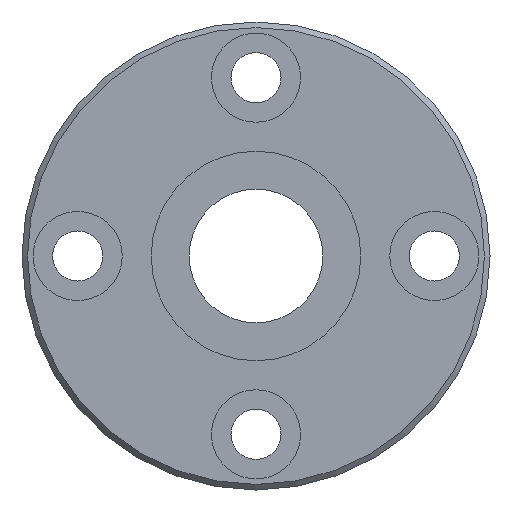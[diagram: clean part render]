
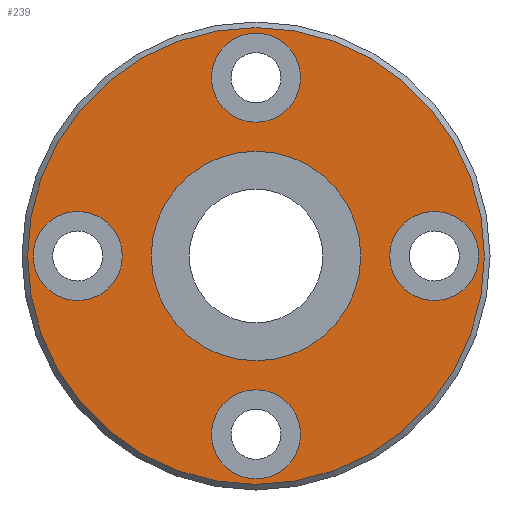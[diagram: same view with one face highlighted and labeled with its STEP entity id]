
A CAD part, left-side view. The second image highlights one B-rep face of the part: STEP entity #239.
In plain terms, the highlighted planar face has unit normal (-1, 0, 0).
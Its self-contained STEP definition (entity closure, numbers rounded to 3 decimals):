
#164=CARTESIAN_POINT('',(0.,0.,20.5));
#165=VERTEX_POINT('',#164);
#166=CARTESIAN_POINT('',(0.,0.0,0.0));
#167=DIRECTION('',(1.0,0.0,0.0));
#168=DIRECTION('',(0.0,0.0,-1.0));
#169=AXIS2_PLACEMENT_3D('',#166,#167,#168);
#170=CIRCLE('',#169,20.5);
#171=EDGE_CURVE('',#165,#165,#170,.T.);
#176=CARTESIAN_POINT('',(0.,0.0,9.95));
#177=DIRECTION('',(-1.0,0.0,0.0));
#178=DIRECTION('',(0.0,0.0,1.0));
#179=AXIS2_PLACEMENT_3D('',#176,#177,#178);
#180=PLANE('',#179);
#181=ORIENTED_EDGE('',*,*,#171,.F.);
#182=EDGE_LOOP('',(#181));
#183=FACE_OUTER_BOUND('',#182,.T.);
#184=CARTESIAN_POINT('',(0.,0.0,9.4));
#185=VERTEX_POINT('',#184);
#186=CARTESIAN_POINT('',(0.,0.0,0.0));
#187=DIRECTION('',(-1.0,0.0,0.0));
#188=DIRECTION('',(0.0,0.0,1.0));
#189=AXIS2_PLACEMENT_3D('',#186,#187,#188);
#190=CIRCLE('',#189,9.4);
#191=EDGE_CURVE('',#185,#185,#190,.T.);
#192=ORIENTED_EDGE('',*,*,#191,.F.);
#193=EDGE_LOOP('',(#192));
#194=FACE_BOUND('',#193,.T.);
#195=CARTESIAN_POINT('',(0.0,20.0,0.));
#196=VERTEX_POINT('',#195);
#197=CARTESIAN_POINT('',(0.,16.0,0.));
#198=DIRECTION('',(1.0,0.0,0.0));
#199=DIRECTION('',(0.0,1.0,0.0));
#200=AXIS2_PLACEMENT_3D('',#197,#198,#199);
#201=CIRCLE('',#200,4.0);
#202=EDGE_CURVE('',#196,#196,#201,.T.);
#203=ORIENTED_EDGE('',*,*,#202,.T.);
#204=EDGE_LOOP('',(#203));
#205=FACE_BOUND('',#204,.T.);
#206=CARTESIAN_POINT('',(0.0,-12.,0.));
#207=VERTEX_POINT('',#206);
#208=CARTESIAN_POINT('',(0.,-16.0,0.));
#209=DIRECTION('',(1.0,0.0,0.0));
#210=DIRECTION('',(0.0,1.0,0.0));
#211=AXIS2_PLACEMENT_3D('',#208,#209,#210);
#212=CIRCLE('',#211,4.0);
#213=EDGE_CURVE('',#207,#207,#212,.T.);
#214=ORIENTED_EDGE('',*,*,#213,.T.);
#215=EDGE_LOOP('',(#214));
#216=FACE_BOUND('',#215,.T.);
#217=CARTESIAN_POINT('',(0.0,4.,16.0));
#218=VERTEX_POINT('',#217);
#219=CARTESIAN_POINT('',(0.,0.,16.0));
#220=DIRECTION('',(1.0,0.0,0.0));
#221=DIRECTION('',(0.0,1.0,0.0));
#222=AXIS2_PLACEMENT_3D('',#219,#220,#221);
#223=CIRCLE('',#222,4.0);
#224=EDGE_CURVE('',#218,#218,#223,.T.);
#225=ORIENTED_EDGE('',*,*,#224,.T.);
#226=EDGE_LOOP('',(#225));
#227=FACE_BOUND('',#226,.T.);
#228=CARTESIAN_POINT('',(0.0,4.,-16.0));
#229=VERTEX_POINT('',#228);
#230=CARTESIAN_POINT('',(0.,0.,-16.0));
#231=DIRECTION('',(1.0,0.0,0.0));
#232=DIRECTION('',(0.0,1.0,0.0));
#233=AXIS2_PLACEMENT_3D('',#230,#231,#232);
#234=CIRCLE('',#233,4.0);
#235=EDGE_CURVE('',#229,#229,#234,.T.);
#236=ORIENTED_EDGE('',*,*,#235,.T.);
#237=EDGE_LOOP('',(#236));
#238=FACE_BOUND('',#237,.T.);
#239=ADVANCED_FACE('',(#183,#194,#205,#216,#227,#238),#180,.T.);
